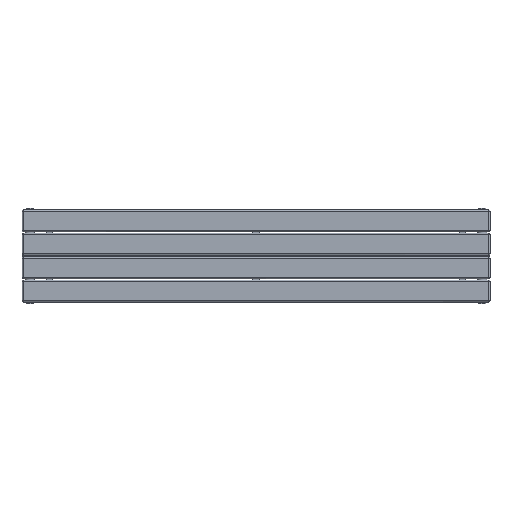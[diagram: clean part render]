
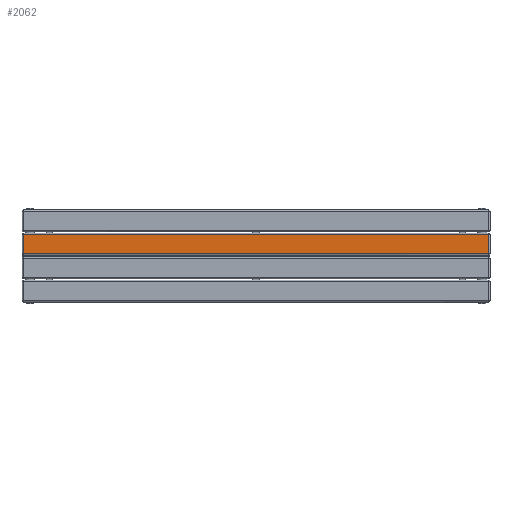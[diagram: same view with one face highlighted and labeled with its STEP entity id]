
A CAD part, top view. The second image highlights one B-rep face of the part: STEP entity #2062.
In plain terms, the highlighted planar face has unit normal (0, 0, 1) as drawn and (0, -1, 0) by its records, which use the part's own axes.
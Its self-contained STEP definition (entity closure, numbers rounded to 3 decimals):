
#146=LINE('',#3505,#319);
#147=LINE('',#3507,#320);
#148=LINE('',#3509,#321);
#149=LINE('',#3510,#322);
#319=VECTOR('',#2578,10.);
#320=VECTOR('',#2579,10.);
#321=VECTOR('',#2580,10.);
#322=VECTOR('',#2581,10.);
#504=PLANE('',#2279);
#713=FACE_OUTER_BOUND('',#862,.T.);
#862=EDGE_LOOP('',(#1524,#1525,#1526,#1527));
#1024=VERTEX_POINT('',#3503);
#1025=VERTEX_POINT('',#3504);
#1026=VERTEX_POINT('',#3506);
#1027=VERTEX_POINT('',#3508);
#1211=EDGE_CURVE('',#1024,#1025,#146,.T.);
#1212=EDGE_CURVE('',#1026,#1024,#147,.T.);
#1213=EDGE_CURVE('',#1027,#1026,#148,.T.);
#1214=EDGE_CURVE('',#1025,#1027,#149,.T.);
#1524=ORIENTED_EDGE('',*,*,#1211,.F.);
#1525=ORIENTED_EDGE('',*,*,#1212,.F.);
#1526=ORIENTED_EDGE('',*,*,#1213,.F.);
#1527=ORIENTED_EDGE('',*,*,#1214,.F.);
#2062=ADVANCED_FACE('',(#713),#504,.T.);
#2279=AXIS2_PLACEMENT_3D('',#3502,#2576,#2577);
#2576=DIRECTION('center_axis',(0.,-1.,0.));
#2577=DIRECTION('ref_axis',(1.,0.,0.));
#2578=DIRECTION('',(-1.,0.,0.));
#2579=DIRECTION('',(0.,0.,-1.));
#2580=DIRECTION('',(1.,0.,0.));
#2581=DIRECTION('',(0.,0.,1.));
#3502=CARTESIAN_POINT('Origin',(-31.,-8.,0.));
#3503=CARTESIAN_POINT('',(31.,-8.,-746.));
#3504=CARTESIAN_POINT('',(-31.,-8.,-746.));
#3505=CARTESIAN_POINT('',(-15.5,-8.,-746.));
#3506=CARTESIAN_POINT('',(31.,-8.,746.));
#3507=CARTESIAN_POINT('',(31.,-8.,0.));
#3508=CARTESIAN_POINT('',(-31.,-8.,746.));
#3509=CARTESIAN_POINT('',(-15.5,-8.,746.));
#3510=CARTESIAN_POINT('',(-31.,-8.,0.));
